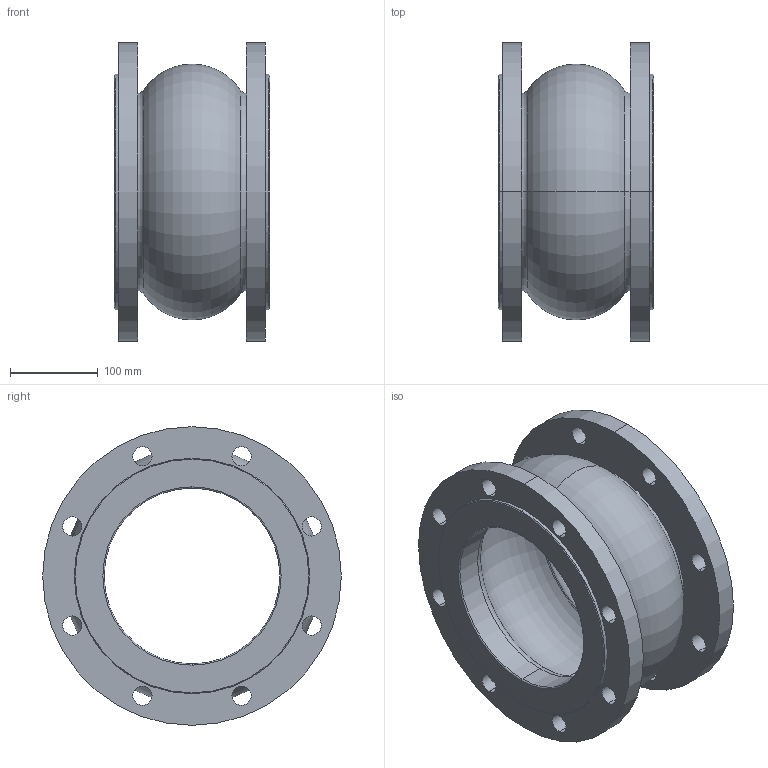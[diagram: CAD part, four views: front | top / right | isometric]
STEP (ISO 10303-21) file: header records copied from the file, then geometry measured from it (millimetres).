
FILE_DESCRIPTION (( 'STEP AP203' ), '1' );
FILE_NAME ('F8_PN10_DN200.STEP', '2012-10-31T09:19:58', ( 'luca.saino' ), ( 'Hewlett-Packard Company' ), 'SwSTEP 2.0', 'SolidWorks 2012', '' );
FILE_SCHEMA (( 'CONFIG_CONTROL_DESIGN' ));
Length unit declared in the file: millimetre
Products named in the file (1): F8_PN10_DN200
Bounding box: 177 x 340 x 340 mm (x, y, z)
Volume: 4037737.3 mm3; surface area: 554681.9 mm2
Topology: 1 solids, 1 shells, 74 faces, 180 edges, 112 vertices
Faces by surface type: cylinder 44, torus 16, cone 8, plane 6
Entity records: 2365 total; most frequent: DIRECTION 458, CARTESIAN_POINT 367, ORIENTED_EDGE 360, AXIS2_PLACEMENT_3D 203, EDGE_CURVE 180, CIRCLE 128, VERTEX_POINT 112, EDGE_LOOP 112
